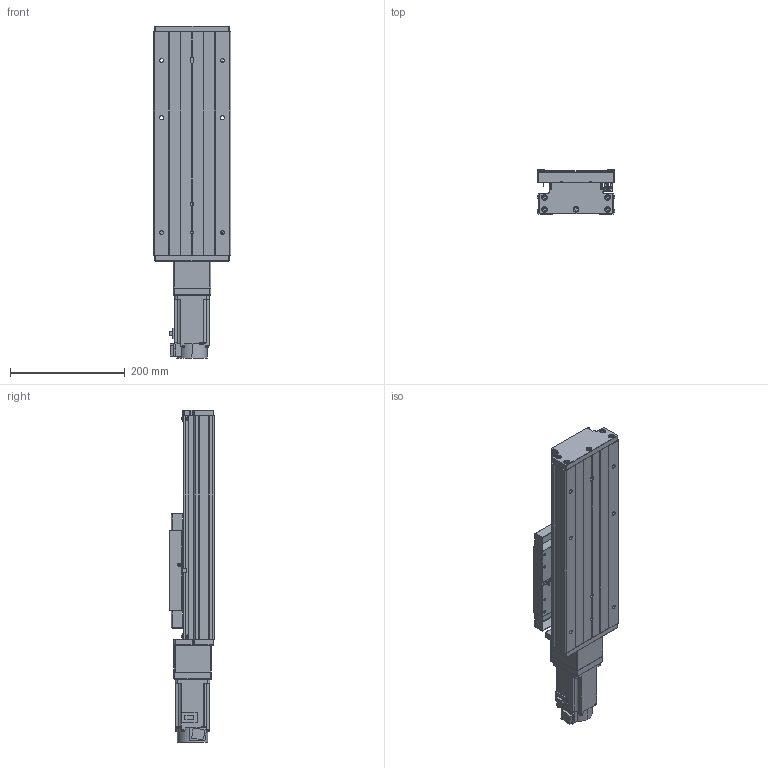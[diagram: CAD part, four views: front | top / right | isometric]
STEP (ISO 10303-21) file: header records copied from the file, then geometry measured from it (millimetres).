
FILE_DESCRIPTION (( 'STEP AP203' ), '1' );
FILE_NAME ('GTH14-150-BC-M40-C4.step', '2023-06-30T08:32:56', ( '微软用户' ), ( '微软中国' ), 'SwSTEP 2.0', 'SolidWorks 2020', '' );
FILE_SCHEMA (( 'CONFIG_CONTROL_DESIGN' ));
Length unit declared in the file: millimetre
Products named in the file (20): GTH14-004; CTHA60-016; CTHA86-027-1; GTH14-005; GBT 70.1-M3℅5; HG-KN43J-S100; GB1155-6X6; GBT77-2000 M3×3; GBT 70.3-M3℅8; GBT70.1 M5℅16; GTH14-031; GTH14-150-BC-M40-C4; GBT 70.2-M3¡Á5_M3¡Á6; す晦芛蹟隊 M3℅5; GTH14-001_150; CTHA60-017; CTHA86-006-1_M40; GTH14-002_GTH14-002; EE_SX911P_R; CTHA86-013
Assembly tree (57 placements, depth 2):
  GTH14-150-BC-M40-C4
    GTH14-001_150
    GTH14-002_GTH14-002
    GTH14-004
    GTH14-005
    GB1155-6X6  x2
    GBT70.1 M5℅16  x10
    GBT 70.2-M3¡Á5_M3¡Á6  x8
    CTHA60-017  x3
    EE_SX911P_R  x3
    CTHA60-016  x2
    GBT 70.1-M3℅5  x6
    GBT77-2000 M3×3  x6
    GTH14-031
    す晦芛蹟隊 M3℅5  x6
    CTHA86-006-1_M40
    CTHA86-013
    CTHA86-027-1
    HG-KN43J-S100
    GBT 70.3-M3℅8  x2
Bounding box: 135 x 78 x 578.7 mm (x, y, z)
Volume: 2969751.3 mm3; surface area: 524026.1 mm2
Topology: 60 solids, 60 shells, 2394 faces, 5709 edges, 3522 vertices
Faces by surface type: plane 1298, cylinder 632, cone 304, torus 120, sphere 20, bspline 20
Entity records: 43804 total; most frequent: CARTESIAN_POINT 9797, DIRECTION 6396, ORIENTED_EDGE 6302, EDGE_CURVE 3151, AXIS2_PLACEMENT_3D 2165, LINE 2066, VECTOR 2066, VERTEX_POINT 1990
